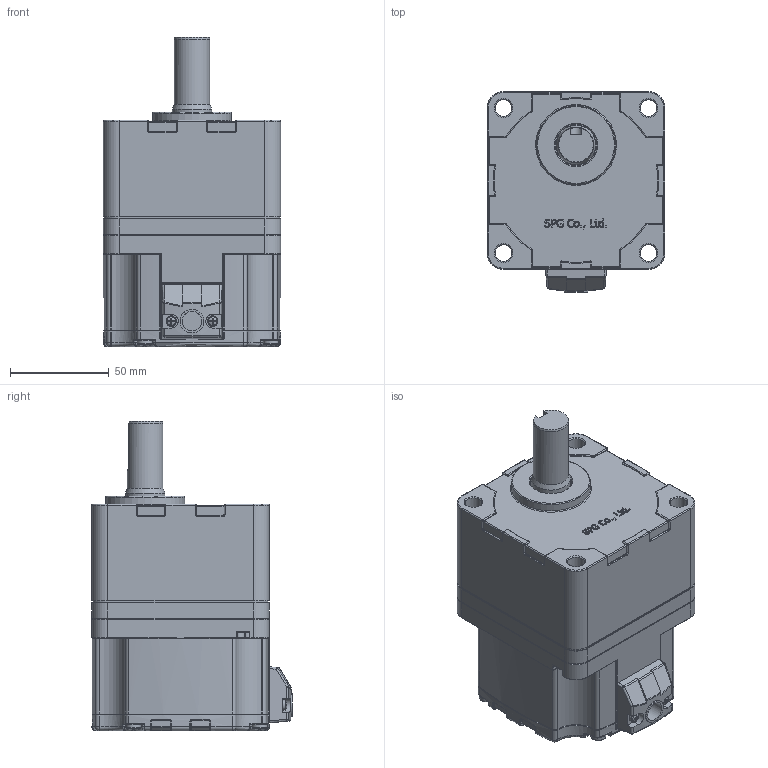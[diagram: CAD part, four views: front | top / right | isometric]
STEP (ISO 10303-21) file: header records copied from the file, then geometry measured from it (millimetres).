
FILE_DESCRIPTION((''),'2;1');
FILE_NAME('C:\Documents and Settings\Administrator\바탕 화면\BLDC 3D FILE\GEARED MOTOR\90-RATIO 30~100.stp','2014-06-19T16:09:11',('kdhkdh'),(''),'Autodesk Inventor 2011','Autodesk Inventor 2011','');
FILE_SCHEMA(('AUTOMOTIVE_DESIGN { 1 0 10303 214 1 1 1 1 }'));
Length unit declared in the file: millimetre
Products named in the file (1): 부품1
Bounding box: 90 x 101.5 x 157 mm (x, y, z)
Volume: 855000.7 mm3; surface area: 96787.4 mm2
Topology: 1 solids, 19 shells, 1336 faces, 3320 edges, 1967 vertices
Faces by surface type: cylinder 409, plane 386, bspline 215, torus 164, cone 104, sphere 58
Full cylindrical faces by diameter (mm): 2.729 x2, 3 x6, 3.5 x2, 3.621 x4, 4 x12, 4.5 x4, 5 x4, 5.3 x2, 7.62 x1, 7.64 x4, 8 x4, 8.5 x12, 9 x1, 10 x1, 12 x2, 18 x1, 20 x1, 21 x1, 22 x1, 40 x1, 70 x1, 83 x3, 86 x2
Entity records: 42684 total; most frequent: CARTESIAN_POINT 13184, ORIENTED_EDGE 6050, DIRECTION 5973, EDGE_CURVE 3025, AXIS2_PLACEMENT_3D 2400, VERTEX_POINT 1899, EDGE_LOOP 1542, FACE_OUTER_BOUND 1336
